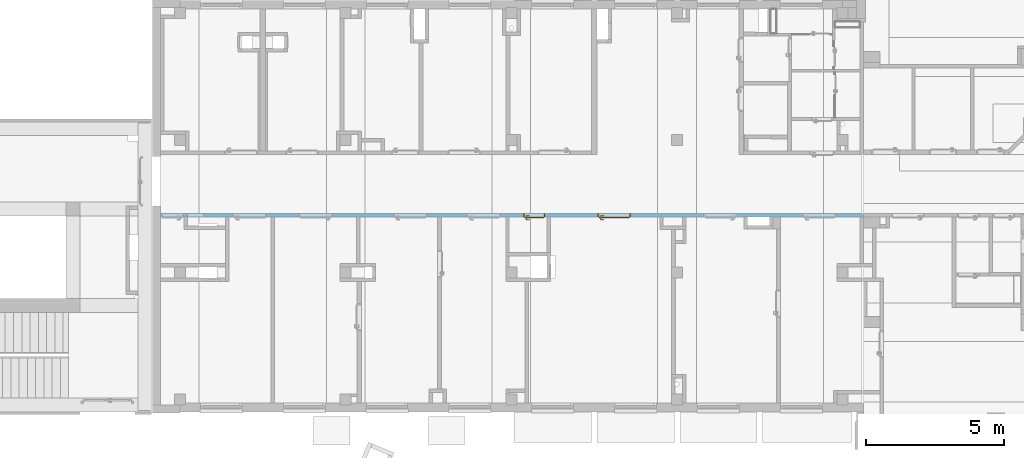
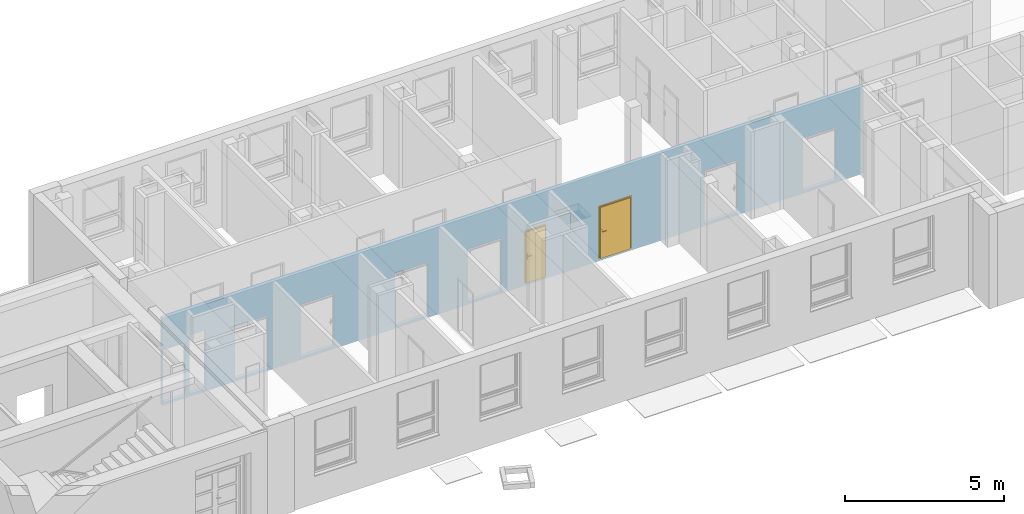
# One storey, part 21 of 140: 2 doors, 10 openings, plus 1 element that does not belong to this part.
"""IFC4 building model written with IfcOpenShell, lengths in metres."""

from ifc_helpers import new_model, entity, si_unit, converted_unit, derived_unit, frame, frame_2d, origin, origin_with_axes, place, context, subcontext, project, spatial, polyline, rectangle, outline, extrude, closed_shell, open_shell, surface_model, source, transform, mapped, material, layer, layer_set, layer_usage, type_object, element, fill, save


model = new_model("IFC4")

# Units and contexts
model_context = context("Model", 3, precision=1e-05, world=origin())
body_context = subcontext(model_context, "Body", "Model", "MODEL_VIEW")
ifc_project = project(units=[si_unit("LENGTHUNIT", "METRE"), si_unit("AREAUNIT", "SQUARE_METRE"), si_unit("VOLUMEUNIT", "CUBIC_METRE"), si_unit("MASSUNIT", "GRAM", prefix="KILO"), converted_unit("PLANEANGLEUNIT", "DEGREE", entity("IfcPlaneAngleMeasure", 0.0174532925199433), si_unit("PLANEANGLEUNIT", "RADIAN"), dimensions=[0, 0, 0, 0, 0, 0, 0]), derived_unit("THERMALTRANSMITTANCEUNIT", [(si_unit("POWERUNIT", "WATT"), 1), (si_unit("THERMODYNAMICTEMPERATUREUNIT", "KELVIN"), -1), (si_unit("LENGTHUNIT", "METRE"), -2)]), derived_unit("VOLUMETRICFLOWRATEUNIT", [(si_unit("LENGTHUNIT", "METRE"), 3), (converted_unit("TIMEUNIT", "hour", entity("IfcTimeMeasure", 3600.0), si_unit("TIMEUNIT", "SECOND"), dimensions=[0, 0, 1, 0, 0, 0, 0]), -1), (si_unit("LENGTHUNIT", "METRE"), -1)])], contexts=[model_context])

# Site, building, storey
site_placement = place(None, origin())
site = spatial("IfcSite", under=ifc_project, at=site_placement, Name="3. ASŘ", CompositionType="ELEMENT")
building_placement = place(site_placement, origin())
building = spatial("IfcBuilding", under=site, at=building_placement, Name="Pavilon C", CompositionType="ELEMENT")
storey_placement = place(building_placement, origin())
storey = spatial("IfcBuildingStorey", under=building, at=storey_placement, Name="Půdorys 1.NP", CompositionType="ELEMENT", Elevation=0.0)

# Wall, openings, doors
ifc_material = material(Name="ZDIVO Z CDm")
ifc_layer = layer(ifc_material, 0.125)
ifc_layer_set = layer_set([ifc_layer])
ifc_layer_usage = layer_usage(ifc_layer_set, "AXIS2", "POSITIVE", 0.0)
wall_placement = place(storey_placement, frame((24.75, 7.525, -0.1), z_axis=(0.0, 0.0, 1.0), x_axis=(-1.0, 0.0, 0.0)))
wall = element("IfcWall", 1, at=wall_placement, inside=storey, material=ifc_layer_usage, Name="ZDIVO Z CDm", context=body_context, shape_type="SweptSolid", body=[
    extrude(rectangle(XDim=25.45, YDim=0.125, at=frame_2d((12.725, 0.0625), x_axis=(1.0, 0.0))), origin_with_axes(), (0.0, 0.0, 1.0), 3.35),
])
opening_1_placement = place(wall_placement, frame((1.00000000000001, 0.0, 0.1), z_axis=(0.0, 1.0, 0.0), x_axis=(0.0, 0.0, 1.0)))
element("IfcOpeningElement", 2, at=opening_1_placement, cuts=wall, Name="Dveřní otvor", ObjectType="Opening", context=body_context, shape_type="SweptSolid", body=[
    extrude(outline(polyline([(0.0, 1.2), (2.02, 1.2), (2.02, 0.0), (0.0, 0.0), (0.0, 1.2)])), origin_with_axes(), (0.0, 0.0, 1.0), 0.125),
])
opening_2_placement = place(wall_placement, frame((5.77499999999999, 0.125, 0.1), z_axis=(0.0, -1.0, 0.0), x_axis=(0.0, 0.0, 1.0)))
element("IfcOpeningElement", 3, at=opening_2_placement, cuts=wall, Name="Dveřní otvor", ObjectType="Opening", context=body_context, shape_type="SweptSolid", body=[
    extrude(outline(polyline([(0.0, 1.2), (2.02, 1.2), (2.02, 0.0), (0.0, 0.0), (0.0, 1.2)])), origin_with_axes(), (0.0, 0.0, 1.0), 0.125),
])
opening_3_placement = place(wall_placement, frame((17.005, 0.125, 0.1), z_axis=(0.0, -1.0, 0.0), x_axis=(0.0, 0.0, 1.0)))
element("IfcOpeningElement", 4, at=opening_3_placement, cuts=wall, Name="Dveřní otvor", ObjectType="Opening", context=body_context, shape_type="SweptSolid", body=[
    extrude(outline(polyline([(0.0, 1.2), (2.02, 1.2), (2.02, 0.0), (0.0, 0.0), (0.0, 1.2)])), origin_with_axes(), (0.0, 0.0, 1.0), 0.125),
])
opening_4_placement = place(wall_placement, frame((20.43, 0.125, 0.1), z_axis=(0.0, -1.0, 0.0), x_axis=(0.0, 0.0, 1.0)))
element("IfcOpeningElement", 5, at=opening_4_placement, cuts=wall, Name="Dveřní otvor", ObjectType="Opening", context=body_context, shape_type="SweptSolid", body=[
    extrude(outline(polyline([(0.0, 1.2), (2.02, 1.2), (2.02, 0.0), (0.0, 0.0), (0.0, 1.2)])), origin_with_axes(), (0.0, 0.0, 1.0), 0.125),
])
opening_5_placement = place(wall_placement, frame((23.88, 0.0, 0.1), z_axis=(0.0, 1.0, 0.0), x_axis=(0.0, 0.0, 1.0)))
element("IfcOpeningElement", 6, at=opening_5_placement, cuts=wall, Name="Dveřní otvor", ObjectType="Opening", context=body_context, shape_type="SweptSolid", body=[
    extrude(outline(polyline([(0.0, 0.6), (2.25, 0.6), (2.25, 0.0), (0.0, 0.0), (0.0, 0.6)])), origin_with_axes(), (0.0, 0.0, 1.0), 0.125),
])
opening_6_placement = place(wall_placement, frame((24.625, 0.0, 0.1), z_axis=(0.0, 1.0, 0.0), x_axis=(0.0, 0.0, 1.0)))
element("IfcOpeningElement", 7, at=opening_6_placement, cuts=wall, Name="Dveřní otvor", ObjectType="Opening", context=body_context, shape_type="SweptSolid", body=[
    extrude(outline(polyline([(0.0, 0.8), (2.02, 0.8), (2.02, 0.0), (0.0, 0.0), (0.0, 0.8)])), origin_with_axes(), (0.0, 0.0, 1.0), 0.125),
])
opening_7_placement = place(wall_placement, frame((21.625, 0.0, 0.1), z_axis=(0.0, 1.0, 0.0), x_axis=(0.0, 0.0, 1.0)))
element("IfcOpeningElement", 8, at=opening_7_placement, cuts=wall, Name="Dveřní otvor", ObjectType="Opening", context=body_context, shape_type="SweptSolid", body=[
    extrude(outline(polyline([(0.0, 1.2), (2.02, 1.2), (2.02, 0.0), (0.0, 0.0), (0.0, 1.2)])), origin_with_axes(), (0.0, 0.0, 1.0), 0.125),
])
opening_8_placement = place(wall_placement, frame((13.15, 0.0, 0.1), z_axis=(0.0, 1.0, 0.0), x_axis=(0.0, 0.0, 1.0)))
element("IfcOpeningElement", 9, at=opening_8_placement, cuts=wall, Name="Dveřní otvor", ObjectType="Opening", context=body_context, shape_type="SweptSolid", body=[
    extrude(outline(polyline([(0.0, 1.2), (2.02, 1.2), (2.02, 0.0), (0.0, 0.0), (0.0, 1.2)])), origin_with_axes(), (0.0, 0.0, 1.0), 0.125),
])
opening_9_placement = place(wall_placement, frame((11.525, 0.0, 0.1), z_axis=(0.0, 1.0, 0.0), x_axis=(0.0, 0.0, 1.0)))
opening_9 = element("IfcOpeningElement", 10, at=opening_9_placement, cuts=wall, Name="Dveřní otvor", ObjectType="Opening", context=body_context, shape_type="SweptSolid", body=[
    extrude(outline(polyline([(0.0, 0.8), (2.02, 0.8), (2.02, 0.0), (0.0, 0.0), (0.0, 0.8)])), origin_with_axes(), (0.0, 0.0, 1.0), 0.125),
])
opening_10_placement = place(wall_placement, frame((8.425, 0.0, 0.1), z_axis=(0.0, 1.0, 0.0), x_axis=(0.0, 0.0, 1.0)))
opening_10 = element("IfcOpeningElement", 11, at=opening_10_placement, cuts=wall, Name="Dveřní otvor", ObjectType="Opening", context=body_context, shape_type="SweptSolid", body=[
    extrude(outline(polyline([(0.0, 1.2), (2.02, 1.2), (2.02, 0.0), (0.0, 0.0), (0.0, 1.2)])), origin_with_axes(), (0.0, 0.0, 1.0), 0.125),
])
door_type_1 = type_object("IfcDoorType", Name="D101", OperationType="NOTDEFINED", ParameterTakesPrecedence=False, PredefinedType="DOOR")
shared_shape_1 = source(origin_with_axes(), body_context, "Body", "SurfaceModel", [
    surface_model("IfcShellBasedSurfaceModel", [(0.0, 0.125, 2.02), (0.0, 0.125, -7.65404249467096e-18), (0.05, 0.125, -7.65404249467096e-18), (0.05, 0.125, 2.02), (0.0, 0.0, 7.65404249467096e-18), (0.0, 2.41584530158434e-16, 2.02), (0.05, 2.41584530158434e-16, 2.02), (0.05, 0.0, 7.65404249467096e-18)], [closed_shell([[[0, 1, 2, 3]], [[4, 5, 6, 7]], [[1, 0, 5, 4]], [[2, 1, 4, 7]], [[3, 2, 7, 6]], [[0, 3, 6, 5]]], orient=[[False], [False], [False], [False], [False], [False]])]),
    surface_model("IfcShellBasedSurfaceModel", [(0.750000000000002, 0.125, 2.02), (0.750000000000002, 0.125, -7.65404249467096e-18), (0.800000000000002, 0.125, -7.65404249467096e-18), (0.800000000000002, 0.125, 2.02), (0.750000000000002, 0.0, 7.65404249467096e-18), (0.750000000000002, 2.41584530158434e-16, 2.02), (0.800000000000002, 2.41584530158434e-16, 2.02), (0.800000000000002, 0.0, 7.65404249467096e-18)], [closed_shell([[[0, 1, 2, 3]], [[4, 5, 6, 7]], [[1, 0, 5, 4]], [[2, 1, 4, 7]], [[3, 2, 7, 6]], [[0, 3, 6, 5]]], orient=[[False], [False], [False], [False], [False], [False]])]),
    surface_model("IfcShellBasedSurfaceModel", [(0.05, 0.125, 2.02), (0.05, 0.125, 1.97), (0.750000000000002, 0.125, 1.97), (0.750000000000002, 0.125, 2.02), (0.05, 2.41584530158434e-16, 1.97), (0.05, 2.41584530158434e-16, 2.02), (0.750000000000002, 2.41584530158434e-16, 2.02), (0.750000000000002, 2.41584530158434e-16, 1.97)], [closed_shell([[[0, 1, 2, 3]], [[4, 5, 6, 7]], [[1, 0, 5, 4]], [[2, 1, 4, 7]], [[3, 2, 7, 6]], [[0, 3, 6, 5]]], orient=[[False], [False], [False], [False], [False], [False]])]),
    surface_model("IfcShellBasedSurfaceModel", [(0.05, 0.165, 1.97), (0.05, 0.165, -1.25526296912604e-17), (0.750000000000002, 0.165, -1.25526296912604e-17), (0.750000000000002, 0.165, 1.97), (0.05, 0.125, -7.65404249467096e-18), (0.05, 0.125, 1.97), (0.750000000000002, 0.125, 1.97), (0.750000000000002, 0.125, -7.65404249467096e-18)], [closed_shell([[[0, 1, 2, 3]], [[4, 5, 6, 7]], [[1, 0, 5, 4]], [[2, 1, 4, 7]], [[3, 2, 7, 6]], [[0, 3, 6, 5]]], orient=[[False], [False], [False], [False], [False], [False]])]),
    surface_model("IfcShellBasedSurfaceModel", [(0.660000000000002, 0.125, 1.125), (0.660000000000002, 0.125, 0.91), (0.710000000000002, 0.125, 0.91), (0.710000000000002, 0.125, 1.125), (0.660000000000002, 0.115, 0.91), (0.660000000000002, 0.115, 1.125), (0.710000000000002, 0.115, 1.125), (0.710000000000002, 0.115, 0.91)], [closed_shell([[[0, 1, 2, 3]], [[4, 5, 6, 7]], [[1, 0, 5, 4]], [[2, 1, 4, 7]], [[3, 2, 7, 6]], [[0, 3, 6, 5]]], orient=[[False], [False], [False], [False], [False], [False]])]),
    surface_model("IfcShellBasedSurfaceModel", [(0.685000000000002, 0.115, 1.06), (0.680000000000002, 0.115, 1.05866025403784), (0.676339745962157, 0.115, 1.055), (0.675000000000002, 0.115, 1.05), (0.676339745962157, 0.115, 1.045), (0.680000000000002, 0.115, 1.04133974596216), (0.685000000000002, 0.115, 1.04), (0.690000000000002, 0.115, 1.04133974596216), (0.693660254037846, 0.115, 1.045), (0.695000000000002, 0.115, 1.05), (0.693660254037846, 0.115, 1.055), (0.690000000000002, 0.115, 1.05866025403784), (0.690000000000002, 0.0700000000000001, 1.05866025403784), (0.685000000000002, 0.0750000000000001, 1.06), (0.693660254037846, 0.0663397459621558, 1.055), (0.695000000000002, 0.0650000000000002, 1.05), (0.693660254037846, 0.0663397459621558, 1.045), (0.690000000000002, 0.0700000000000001, 1.04133974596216), (0.685000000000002, 0.0750000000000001, 1.04), (0.680000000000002, 0.0800000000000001, 1.04133974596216), (0.676339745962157, 0.0836602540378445, 1.045), (0.675000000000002, 0.0850000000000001, 1.05), (0.676339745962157, 0.0836602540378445, 1.055), (0.680000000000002, 0.0800000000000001, 1.05866025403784), (0.570000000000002, 0.0700000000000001, 1.05866025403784), (0.570000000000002, 0.0750000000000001, 1.06), (0.570000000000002, 0.0663397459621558, 1.055), (0.570000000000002, 0.0650000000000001, 1.05), (0.570000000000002, 0.0663397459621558, 1.045), (0.570000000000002, 0.0700000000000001, 1.04133974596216), (0.570000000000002, 0.0750000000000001, 1.04), (0.570000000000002, 0.0800000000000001, 1.04133974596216), (0.570000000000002, 0.0836602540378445, 1.045), (0.570000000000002, 0.0850000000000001, 1.05), (0.570000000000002, 0.0836602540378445, 1.055), (0.570000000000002, 0.0800000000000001, 1.05866025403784)], [open_shell([[[0, 1, 2, 3, 4, 5, 6, 7, 8, 9, 10, 11]], [[0, 11, 12, 13]], [[11, 10, 14, 12]], [[10, 9, 15, 14]], [[9, 8, 16, 15]], [[8, 7, 17, 16]], [[7, 6, 18, 17]], [[6, 5, 19, 18]], [[5, 4, 20, 19]], [[4, 3, 21, 20]], [[3, 2, 22, 21]], [[2, 1, 23, 22]], [[1, 0, 13, 23]], [[13, 12, 24, 25]], [[12, 14, 26, 24]], [[14, 15, 27, 26]], [[15, 16, 28, 27]], [[16, 17, 29, 28]], [[17, 18, 30, 29]], [[18, 19, 31, 30]], [[19, 20, 32, 31]], [[20, 21, 33, 32]], [[21, 22, 34, 33]], [[22, 23, 35, 34]], [[23, 13, 25, 35]]], orient=[[False], [False], [False], [False], [False], [False], [False], [False], [False], [False], [False], [False], [False], [False], [False], [False], [False], [False], [False], [False], [False], [False], [False], [False], [False]])]),
    surface_model("IfcShellBasedSurfaceModel", [(0.660000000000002, 0.165, 1.125), (0.710000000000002, 0.165, 1.125), (0.710000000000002, 0.165, 0.91), (0.660000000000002, 0.165, 0.91), (0.660000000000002, 0.175, 0.91), (0.710000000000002, 0.175, 0.91), (0.710000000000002, 0.175, 1.125), (0.660000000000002, 0.175, 1.125)], [closed_shell([[[0, 1, 2, 3]], [[4, 5, 6, 7]], [[3, 4, 7, 0]], [[2, 5, 4, 3]], [[1, 6, 5, 2]], [[0, 7, 6, 1]]], orient=[[False], [False], [False], [False], [False], [False]])]),
    surface_model("IfcShellBasedSurfaceModel", [(0.685000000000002, 0.175, 1.06), (0.690000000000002, 0.175, 1.05866025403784), (0.693660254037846, 0.175, 1.055), (0.695000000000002, 0.175, 1.05), (0.693660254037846, 0.175, 1.045), (0.690000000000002, 0.175, 1.04133974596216), (0.685000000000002, 0.175, 1.04), (0.680000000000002, 0.175, 1.04133974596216), (0.676339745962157, 0.175, 1.045), (0.675000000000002, 0.175, 1.05), (0.676339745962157, 0.175, 1.055), (0.680000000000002, 0.175, 1.05866025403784), (0.685000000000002, 0.215, 1.06), (0.690000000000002, 0.22, 1.05866025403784), (0.693660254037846, 0.223660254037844, 1.055), (0.695000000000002, 0.225, 1.05), (0.693660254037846, 0.223660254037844, 1.045), (0.690000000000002, 0.22, 1.04133974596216), (0.685000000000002, 0.215, 1.04), (0.680000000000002, 0.21, 1.04133974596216), (0.676339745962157, 0.206339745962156, 1.045), (0.675000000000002, 0.205, 1.05), (0.676339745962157, 0.206339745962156, 1.055), (0.680000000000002, 0.21, 1.05866025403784), (0.570000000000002, 0.215, 1.06), (0.570000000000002, 0.22, 1.05866025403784), (0.570000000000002, 0.223660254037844, 1.055), (0.570000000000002, 0.225, 1.05), (0.570000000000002, 0.223660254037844, 1.045), (0.570000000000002, 0.22, 1.04133974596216), (0.570000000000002, 0.215, 1.04), (0.570000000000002, 0.21, 1.04133974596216), (0.570000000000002, 0.206339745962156, 1.045), (0.570000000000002, 0.205, 1.05), (0.570000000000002, 0.206339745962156, 1.055), (0.570000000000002, 0.21, 1.05866025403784)], [open_shell([[[0, 1, 2, 3, 4, 5, 6, 7, 8, 9, 10, 11]], [[0, 12, 13, 1]], [[1, 13, 14, 2]], [[2, 14, 15, 3]], [[3, 15, 16, 4]], [[4, 16, 17, 5]], [[5, 17, 18, 6]], [[6, 18, 19, 7]], [[7, 19, 20, 8]], [[8, 20, 21, 9]], [[9, 21, 22, 10]], [[10, 22, 23, 11]], [[11, 23, 12, 0]], [[12, 24, 25, 13]], [[13, 25, 26, 14]], [[14, 26, 27, 15]], [[15, 27, 28, 16]], [[16, 28, 29, 17]], [[17, 29, 30, 18]], [[18, 30, 31, 19]], [[19, 31, 32, 20]], [[20, 32, 33, 21]], [[21, 33, 34, 22]], [[22, 34, 35, 23]], [[23, 35, 24, 12]]], orient=[[False], [False], [False], [False], [False], [False], [False], [False], [False], [False], [False], [False], [False], [False], [False], [False], [False], [False], [False], [False], [False], [False], [False], [False], [False]])]),
])
door_1_placement = place(opening_9_placement, frame((0.0, -1.81898940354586e-15, 0.0), z_axis=(1.0, 0.0, 0.0), x_axis=(0.0, 1.0, -1.22464679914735e-16)))
door_1 = element("IfcDoor", 12, at=door_1_placement, inside=storey, type_object=door_type_1, Name="D101", OverallHeight=2.02, OverallWidth=0.8, context=body_context, shape_type="MappedRepresentation", body=[
    mapped(shared_shape_1, transform((0.0, 0.0, 0.0), x_axis=(1.0, 0.0, 0.0), y_axis=(0.0, 1.0, 0.0), z_axis=(0.0, 0.0, 1.0), scale=1.0)),
])
fill(opening_9, door_1)
door_type_2 = type_object("IfcDoorType", Name="D101", OperationType="NOTDEFINED", ParameterTakesPrecedence=False, PredefinedType="DOOR")
shared_shape_2 = source(origin_with_axes(), body_context, "Body", "SurfaceModel", [
    surface_model("IfcShellBasedSurfaceModel", [(0.0, 0.125, 2.02), (0.0, 0.125, -7.65404249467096e-18), (0.05, 0.125, -7.65404249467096e-18), (0.05, 0.125, 2.02), (0.0, 0.0, 7.65404249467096e-18), (0.0, 2.41584530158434e-16, 2.02), (0.05, 2.41584530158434e-16, 2.02), (0.05, 0.0, 7.65404249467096e-18)], [closed_shell([[[0, 1, 2, 3]], [[4, 5, 6, 7]], [[1, 0, 5, 4]], [[2, 1, 4, 7]], [[3, 2, 7, 6]], [[0, 3, 6, 5]]], orient=[[False], [False], [False], [False], [False], [False]])]),
    surface_model("IfcShellBasedSurfaceModel", [(1.15, 0.125, 2.02), (1.15, 0.125, -7.65404249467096e-18), (1.2, 0.125, -7.65404249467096e-18), (1.2, 0.125, 2.02), (1.15, 0.0, 7.65404249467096e-18), (1.15, 2.41584530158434e-16, 2.02), (1.2, 2.41584530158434e-16, 2.02), (1.2, 0.0, 7.65404249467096e-18)], [closed_shell([[[0, 1, 2, 3]], [[4, 5, 6, 7]], [[1, 0, 5, 4]], [[2, 1, 4, 7]], [[3, 2, 7, 6]], [[0, 3, 6, 5]]], orient=[[False], [False], [False], [False], [False], [False]])]),
    surface_model("IfcShellBasedSurfaceModel", [(0.05, 0.125, 2.02), (0.05, 0.125, 1.97), (1.15, 0.125, 1.97), (1.15, 0.125, 2.02), (0.05, 2.41584530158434e-16, 1.97), (0.05, 2.41584530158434e-16, 2.02), (1.15, 2.41584530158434e-16, 2.02), (1.15, 2.41584530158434e-16, 1.97)], [closed_shell([[[0, 1, 2, 3]], [[4, 5, 6, 7]], [[1, 0, 5, 4]], [[2, 1, 4, 7]], [[3, 2, 7, 6]], [[0, 3, 6, 5]]], orient=[[False], [False], [False], [False], [False], [False]])]),
    surface_model("IfcShellBasedSurfaceModel", [(0.05, 0.165, 1.97), (0.05, 0.165, -1.25526296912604e-17), (1.15, 0.165, -1.25526296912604e-17), (1.15, 0.165, 1.97), (0.05, 0.125, -7.65404249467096e-18), (0.05, 0.125, 1.97), (1.15, 0.125, 1.97), (1.15, 0.125, -7.65404249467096e-18)], [closed_shell([[[0, 1, 2, 3]], [[4, 5, 6, 7]], [[1, 0, 5, 4]], [[2, 1, 4, 7]], [[3, 2, 7, 6]], [[0, 3, 6, 5]]], orient=[[False], [False], [False], [False], [False], [False]])]),
    surface_model("IfcShellBasedSurfaceModel", [(1.06, 0.125, 1.125), (1.06, 0.125, 0.91), (1.11, 0.125, 0.91), (1.11, 0.125, 1.125), (1.06, 0.115, 0.91), (1.06, 0.115, 1.125), (1.11, 0.115, 1.125), (1.11, 0.115, 0.91)], [closed_shell([[[0, 1, 2, 3]], [[4, 5, 6, 7]], [[1, 0, 5, 4]], [[2, 1, 4, 7]], [[3, 2, 7, 6]], [[0, 3, 6, 5]]], orient=[[False], [False], [False], [False], [False], [False]])]),
    surface_model("IfcShellBasedSurfaceModel", [(1.085, 0.115, 1.06), (1.08, 0.115, 1.05866025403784), (1.07633974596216, 0.115, 1.055), (1.075, 0.115, 1.05), (1.07633974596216, 0.115, 1.045), (1.08, 0.115, 1.04133974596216), (1.085, 0.115, 1.04), (1.09, 0.115, 1.04133974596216), (1.09366025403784, 0.115, 1.045), (1.095, 0.115, 1.05), (1.09366025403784, 0.115, 1.055), (1.09, 0.115, 1.05866025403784), (1.09, 0.0700000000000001, 1.05866025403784), (1.085, 0.0750000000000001, 1.06), (1.09366025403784, 0.0663397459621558, 1.055), (1.095, 0.0650000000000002, 1.05), (1.09366025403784, 0.0663397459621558, 1.045), (1.09, 0.0700000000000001, 1.04133974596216), (1.085, 0.0750000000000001, 1.04), (1.08, 0.0800000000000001, 1.04133974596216), (1.07633974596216, 0.0836602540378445, 1.045), (1.075, 0.0850000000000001, 1.05), (1.07633974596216, 0.0836602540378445, 1.055), (1.08, 0.0800000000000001, 1.05866025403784), (0.97, 0.0700000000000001, 1.05866025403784), (0.97, 0.0750000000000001, 1.06), (0.97, 0.0663397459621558, 1.055), (0.97, 0.0650000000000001, 1.05), (0.97, 0.0663397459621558, 1.045), (0.97, 0.0700000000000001, 1.04133974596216), (0.97, 0.0750000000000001, 1.04), (0.97, 0.0800000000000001, 1.04133974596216), (0.97, 0.0836602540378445, 1.045), (0.97, 0.0850000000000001, 1.05), (0.97, 0.0836602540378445, 1.055), (0.97, 0.0800000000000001, 1.05866025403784)], [open_shell([[[0, 1, 2, 3, 4, 5, 6, 7, 8, 9, 10, 11]], [[0, 11, 12, 13]], [[11, 10, 14, 12]], [[10, 9, 15, 14]], [[9, 8, 16, 15]], [[8, 7, 17, 16]], [[7, 6, 18, 17]], [[6, 5, 19, 18]], [[5, 4, 20, 19]], [[4, 3, 21, 20]], [[3, 2, 22, 21]], [[2, 1, 23, 22]], [[1, 0, 13, 23]], [[13, 12, 24, 25]], [[12, 14, 26, 24]], [[14, 15, 27, 26]], [[15, 16, 28, 27]], [[16, 17, 29, 28]], [[17, 18, 30, 29]], [[18, 19, 31, 30]], [[19, 20, 32, 31]], [[20, 21, 33, 32]], [[21, 22, 34, 33]], [[22, 23, 35, 34]], [[23, 13, 25, 35]]], orient=[[False], [False], [False], [False], [False], [False], [False], [False], [False], [False], [False], [False], [False], [False], [False], [False], [False], [False], [False], [False], [False], [False], [False], [False], [False]])]),
    surface_model("IfcShellBasedSurfaceModel", [(1.06, 0.165, 1.125), (1.11, 0.165, 1.125), (1.11, 0.165, 0.91), (1.06, 0.165, 0.91), (1.06, 0.175, 0.91), (1.11, 0.175, 0.91), (1.11, 0.175, 1.125), (1.06, 0.175, 1.125)], [closed_shell([[[0, 1, 2, 3]], [[4, 5, 6, 7]], [[3, 4, 7, 0]], [[2, 5, 4, 3]], [[1, 6, 5, 2]], [[0, 7, 6, 1]]], orient=[[False], [False], [False], [False], [False], [False]])]),
    surface_model("IfcShellBasedSurfaceModel", [(1.085, 0.175, 1.06), (1.09, 0.175, 1.05866025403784), (1.09366025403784, 0.175, 1.055), (1.095, 0.175, 1.05), (1.09366025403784, 0.175, 1.045), (1.09, 0.175, 1.04133974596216), (1.085, 0.175, 1.04), (1.08, 0.175, 1.04133974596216), (1.07633974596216, 0.175, 1.045), (1.075, 0.175, 1.05), (1.07633974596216, 0.175, 1.055), (1.08, 0.175, 1.05866025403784), (1.085, 0.215, 1.06), (1.09, 0.22, 1.05866025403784), (1.09366025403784, 0.223660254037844, 1.055), (1.095, 0.225, 1.05), (1.09366025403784, 0.223660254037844, 1.045), (1.09, 0.22, 1.04133974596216), (1.085, 0.215, 1.04), (1.08, 0.21, 1.04133974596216), (1.07633974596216, 0.206339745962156, 1.045), (1.075, 0.205, 1.05), (1.07633974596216, 0.206339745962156, 1.055), (1.08, 0.21, 1.05866025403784), (0.97, 0.215, 1.06), (0.97, 0.22, 1.05866025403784), (0.97, 0.223660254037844, 1.055), (0.97, 0.225, 1.05), (0.97, 0.223660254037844, 1.045), (0.97, 0.22, 1.04133974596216), (0.97, 0.215, 1.04), (0.97, 0.21, 1.04133974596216), (0.97, 0.206339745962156, 1.045), (0.97, 0.205, 1.05), (0.97, 0.206339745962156, 1.055), (0.97, 0.21, 1.05866025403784)], [open_shell([[[0, 1, 2, 3, 4, 5, 6, 7, 8, 9, 10, 11]], [[0, 12, 13, 1]], [[1, 13, 14, 2]], [[2, 14, 15, 3]], [[3, 15, 16, 4]], [[4, 16, 17, 5]], [[5, 17, 18, 6]], [[6, 18, 19, 7]], [[7, 19, 20, 8]], [[8, 20, 21, 9]], [[9, 21, 22, 10]], [[10, 22, 23, 11]], [[11, 23, 12, 0]], [[12, 24, 25, 13]], [[13, 25, 26, 14]], [[14, 26, 27, 15]], [[15, 27, 28, 16]], [[16, 28, 29, 17]], [[17, 29, 30, 18]], [[18, 30, 31, 19]], [[19, 31, 32, 20]], [[20, 32, 33, 21]], [[21, 33, 34, 22]], [[22, 34, 35, 23]], [[23, 35, 24, 12]]], orient=[[False], [False], [False], [False], [False], [False], [False], [False], [False], [False], [False], [False], [False], [False], [False], [False], [False], [False], [False], [False], [False], [False], [False], [False], [False]])]),
])
door_2_placement = place(opening_10_placement, frame((0.0, -1.81898940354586e-15, 0.0), z_axis=(1.0, 0.0, 0.0), x_axis=(0.0, 1.0, -1.22464679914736e-16)))
door_2 = element("IfcDoor", 13, at=door_2_placement, inside=storey, type_object=door_type_2, Name="D101", OverallHeight=2.02, OverallWidth=1.2, context=body_context, shape_type="MappedRepresentation", body=[
    mapped(shared_shape_2, transform((0.0, 0.0, 0.0), x_axis=(1.0, 0.0, 0.0), y_axis=(0.0, 1.0, 0.0), z_axis=(0.0, 0.0, 1.0), scale=1.0)),
])
fill(opening_10, door_2)

save(model, "model.ifc")
